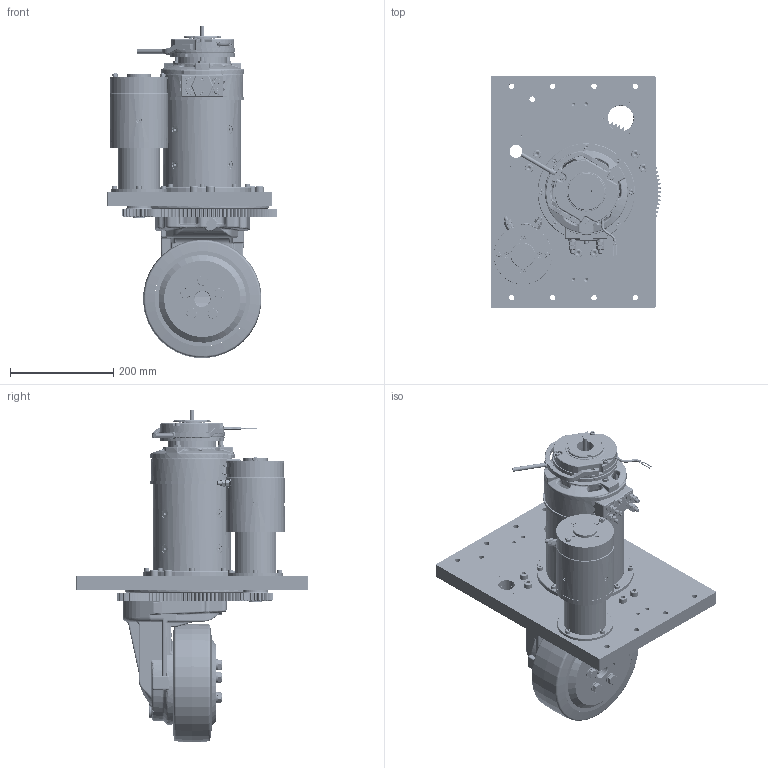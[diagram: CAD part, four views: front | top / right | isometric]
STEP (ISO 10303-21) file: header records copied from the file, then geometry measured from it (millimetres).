
FILE_DESCRIPTION(/* description */ (''),/* implementation_level */ '2;1');
FILE_NAME(/* name */ 'C:\Users\marco bosi\Desktop\WR151ECOFMS-DC.stp',/* time_stamp */ '2023-07-07T12:21:25+02:00',/* author */ ('marco bosi'),/* organization */ (''),/* preprocessor_version */ 'ST-DEVELOPER v18.1',/* originating_system */ 'Autodesk Inventor 2022',/* authorisation */ '');
FILE_SCHEMA (('AUTOMOTIVE_DESIGN { 1 0 10303 214 3 1 1 }'));
Products named in the file (1): WR151ECO.P011_Semplifica_1
Bounding box: 330 x 450 x 643.72 mm (x, y, z)
Volume: 10225317.1 mm3; surface area: 1828107.2 mm2
Topology: 20 solids, 20 shells, 9241 faces, 25066 edges, 16044 vertices
Faces by surface type: plane 5852, cylinder 1875, cone 597, bspline 559, torus 318, sphere 40
Full cylindrical faces by diameter (mm): 1.88 x2, 1.914 x2, 2 x4, 2.1 x8, 2.459 x2, 2.523 x2, 2.6 x1, 3 x2, 3.242 x6, 3.457 x2, 4 x4, 4.1 x2, 4.134 x4, 4.25 x2, 4.48 x15, 4.917 x12, 5 x13, 5.3 x2, 5.35 x3, 5.5 x20, 6 x15, 6.4 x4, 6.5 x11, 6.647 x7, 6.75 x6, 7 x8, 7.5 x5, 7.8 x12, 8 x39, 8.2 x2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
Entity records: 387005 total; most frequent: CARTESIAN_POINT 144104, ORIENTED_EDGE 50016, DIRECTION 48117, EDGE_CURVE 25008, AXIS2_PLACEMENT_3D 16989, VERTEX_POINT 16076, LINE 14139, VECTOR 14139
